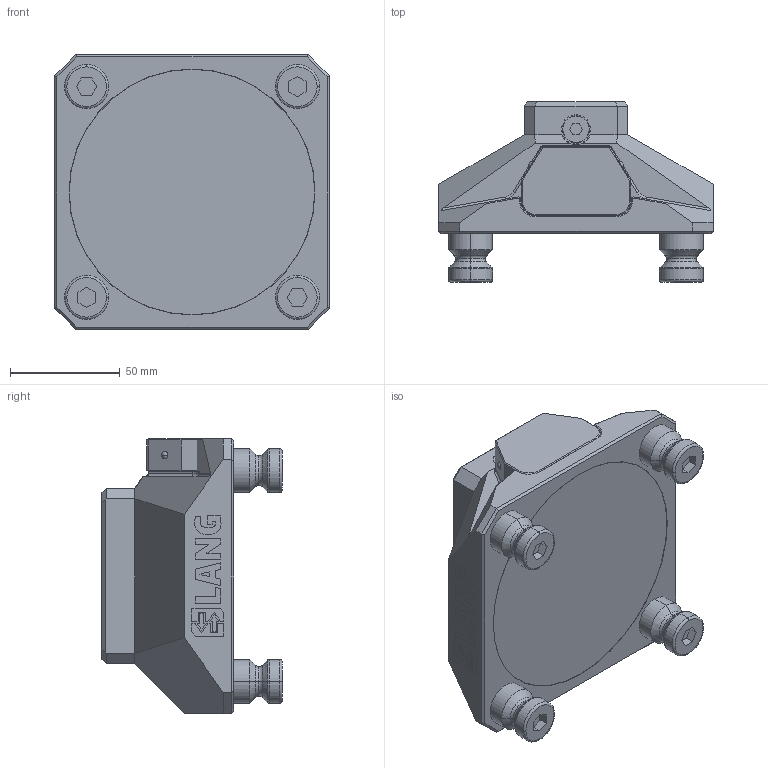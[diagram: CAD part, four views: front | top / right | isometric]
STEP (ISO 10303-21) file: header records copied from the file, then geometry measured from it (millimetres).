
FILE_DESCRIPTION (( 'STEP AP214' ), '1' );
FILE_NAME ('62500.STEP', '2025-08-27T12:37:00', ( '' ), ( '' ), 'SwSTEP 2.0', 'SolidWorks 2021', '' );
FILE_SCHEMA (( 'AUTOMOTIVE_DESIGN' ));
Length unit declared in the file: millimetre
Products named in the file (1): 62500
Bounding box: 125 x 82 x 125 mm (x, y, z)
Volume: 575472.3 mm3; surface area: 67416.4 mm2
Topology: 8 solids, 8 shells, 636 faces, 1589 edges, 1013 vertices
Faces by surface type: plane 407, cylinder 78, cone 56, bspline 51, torus 40, sphere 4
Entity records: 26378 total; most frequent: CARTESIAN_POINT 4277, ORIENTED_EDGE 3178, DIRECTION 2916, EDGE_CURVE 1589, VECTOR 1188, LINE 1188, VERTEX_POINT 1013, AXIS2_PLACEMENT_3D 864
